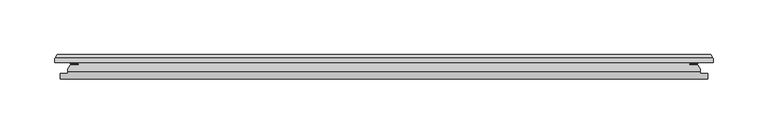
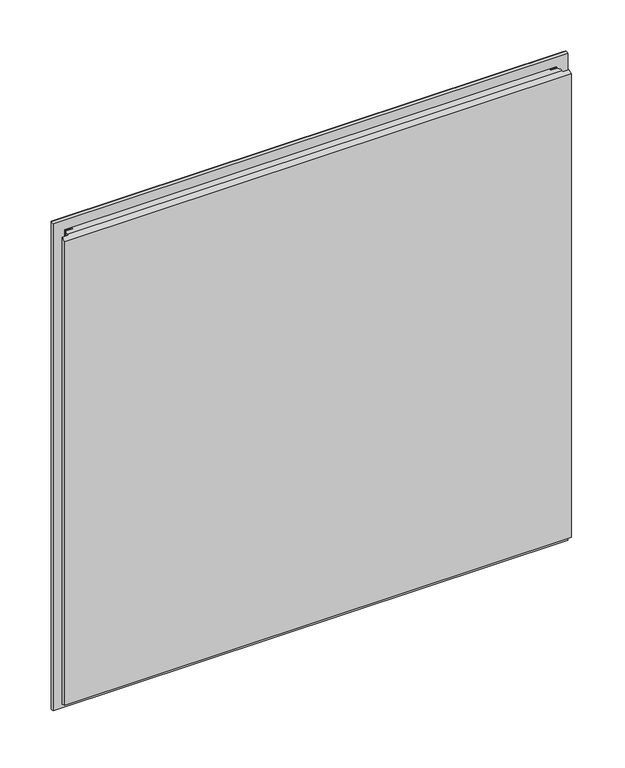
"""IFC4 building model written with IfcOpenShell, lengths in millimetres: plate geometry, Rockfon Blanka X : Rockfon Blanka X."""

from ifc_helpers import new_model, si_unit, origin, place, context, project, spatial, faceted_brep, source, transform, mapped, element, save


def plate_8db3f6ee(model_context):
    return source(origin(), model_context, "Body", "Brep", [
        faceted_brep([(297.7993461, 22.0, 2.0258082), (-297.8, 22.0, 2.0258082), (-297.8, 22.0, 597.9741918), (297.7993461, 22.0, 597.9741918), (-295.0, 0.0, 14.84), (294.9993461, 0.0, 14.84), (294.9993461, 0.0, 585.16), (-295.0, 0.0, 585.16), (-287.95, 5.0, 12.8198689), (-295.0, 5.0, 12.8198689), (-295.0, 5.0, 587.1801311), (-287.95, 5.0, 587.1801311), (-299.85, 15.0, 599.79), (299.8493461, 15.0, 599.79), (299.8493461, 18.5, 599.79), (299.6414598, 18.8549279, 599.79), (-299.6421136, 18.8549279, 599.79), (-299.85, 18.5, 599.79), (287.9493461, 6.3114715, 587.71), (-287.95, 6.3114715, 587.71), (294.9993461, 5.0, 587.1801311), (287.9493461, 5.0, 587.1801311), (286.0493461, 15.0, 587.71), (-286.05, 15.0, 587.71), (-286.05, 14.0, 587.71), (-278.05, 14.0, 587.71), (-278.05, 12.5, 587.71), (-285.95, 12.5, 587.71), (-287.95, 9.0, 587.71), (287.9493461, 9.0, 587.71), (285.9493461, 12.5, 587.71), (278.0493461, 12.5, 587.71), (278.0493461, 14.0, 587.71), (286.0493461, 14.0, 587.71), (-286.05, 15.0, 12.29), (286.0493461, 15.0, 12.29), (286.0493461, 14.0, 12.29), (278.0493461, 14.0, 12.29), (278.0493461, 12.5, 12.29), (285.9493461, 12.5, 12.29), (287.9493461, 9.0, 12.29), (287.9493461, 6.3114715, 12.29), (-287.95, 6.3114715, 12.29), (-287.95, 9.0, 12.29), (-285.95, 12.5, 12.29), (-278.05, 12.5, 12.29), (-278.05, 14.0, 12.29), (-286.05, 14.0, 12.29), (287.9493461, 5.0, 12.8198689), (294.9993461, 5.0, 12.8198689), (299.6414598, 18.8549279, 0.21), (-299.6421136, 18.8549279, 0.21), (299.8493461, 18.5, 0.21), (299.8493461, 15.0, 0.21), (-299.85, 15.0, 0.21), (-299.85, 18.5, 0.21)], [[[0, 1, 2, 3]], [[4, 5, 6, 7]], [[8, 9, 10, 11]], [[12, 13, 14, 15, 16, 17]], [[16, 15, 3, 2]], [[18, 19, 11, 10, 7, 6, 20, 21]], [[22, 23, 24, 25, 26, 27, 28, 19, 18, 29, 30, 31, 32, 33]], [[34, 35, 36, 37, 38, 39, 40, 41, 42, 43, 44, 45, 46, 47]], [[42, 41, 48, 49, 5, 4, 9, 8]], [[50, 51, 1, 0]], [[51, 50, 52, 53, 54, 55]], [[1, 51, 55, 17, 16, 2]], [[55, 54, 12, 17]], [[54, 53, 13, 12], [35, 34, 23, 22]], [[34, 47, 24, 23]], [[47, 46, 25, 24]], [[46, 45, 26, 25]], [[45, 44, 27, 26]], [[44, 43, 28, 27]], [[43, 42, 8, 11, 19, 28]], [[9, 4, 7, 10]], [[5, 49, 20, 6]], [[49, 48, 21, 20]], [[41, 40, 29, 18, 21, 48]], [[40, 39, 30, 29]], [[39, 38, 31, 30]], [[38, 37, 32, 31]], [[37, 36, 33, 32]], [[36, 35, 22, 33]], [[13, 53, 52, 14]], [[50, 0, 3, 15, 14, 52]]]),
    ])


if __name__ == "__main__":
    model = new_model("IFC4")
    model_context = context("Model", 3, world=origin())
    ifc_project = project(units=[si_unit("LENGTHUNIT", "METRE", prefix="MILLI")], contexts=[model_context])
    site = spatial("IfcSite", under=ifc_project)
    building = spatial("IfcBuilding", under=site)
    placement = place(None, origin())
    plate_shape = plate_8db3f6ee(model_context)
    element("IfcPlate", 1, ObjectType="Rockfon Blanka X : Rockfon Blanka X", at=placement, inside=building, context=model_context, shape_type="MappedRepresentation", body=[
        mapped(plate_shape, transform((0.0, 0.0, 0.0), x_axis=(1.0, 0.0, 0.0), y_axis=(0.0, 1.0, 0.0), z_axis=(0.0, 0.0, 1.0))),
    ])
    save(model, "model.ifc")
